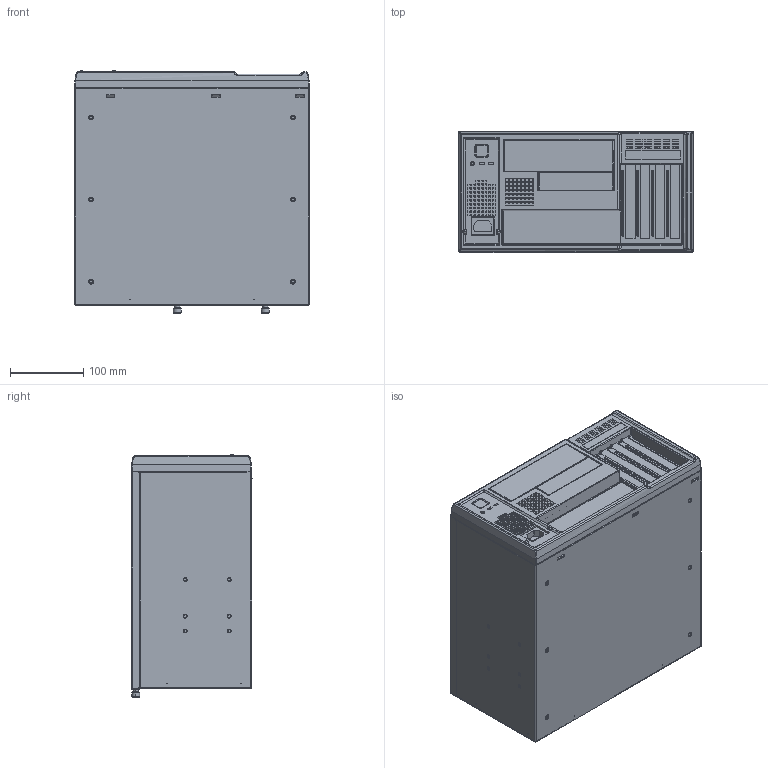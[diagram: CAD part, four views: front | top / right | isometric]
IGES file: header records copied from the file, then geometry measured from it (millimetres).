
Start section: SolidWorks IGES file using analytic representation for surfaces
Global section: file name: D:\Project\IPC\IPC-5120-00CE\Drawing\Online_view\IPC-5120.IGS; native system: SolidWorks 2013; preprocessor: SolidWorks 2013; author: Junshin.Chen; date: 150317.180342; units: millimetre
Bounding box: 320 x 165.3 x 331.19 mm (x, y, z)
Surface area: 522503.9 mm2 (no closed solid volume)
Topology: 0 solids, 0 shells, 3377 faces, 27649 edges, 27621 vertices
Faces by surface type: bspline 2752, revolution 625
